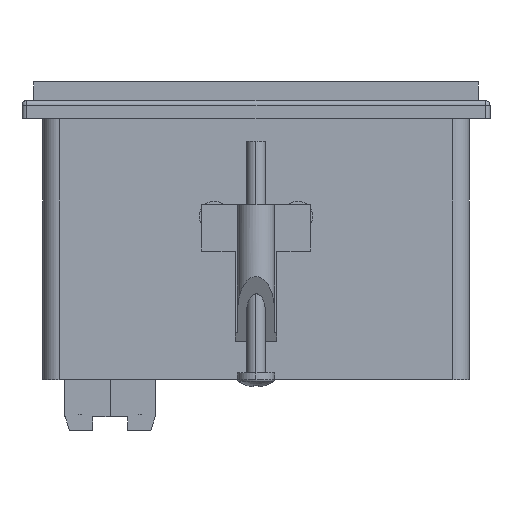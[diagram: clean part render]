
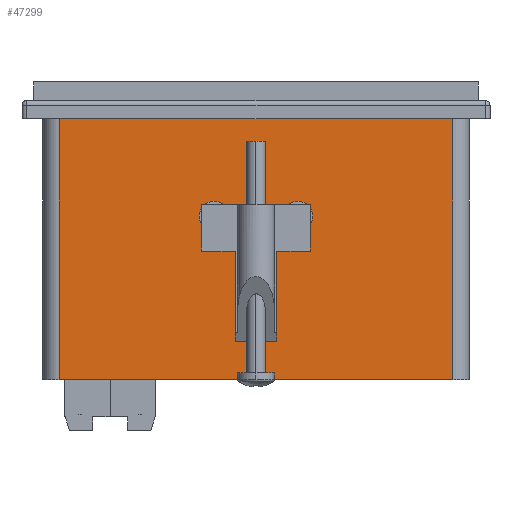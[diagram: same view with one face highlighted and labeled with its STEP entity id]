
A CAD part, left-side view. The second image highlights one B-rep face of the part: STEP entity #47299.
In plain terms, the highlighted planar face has unit normal (-1, 0, 0).
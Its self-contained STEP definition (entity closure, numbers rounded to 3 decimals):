
#3217 = CARTESIAN_POINT ( 'NONE',  ( -46., 46., -58.25 ) ) ;
#4468 = CIRCLE ( 'NONE', #43365, 3.25 ) ;
#5127 = ORIENTED_EDGE ( 'NONE', *, *, #44174, .T. ) ;
#5283 = VERTEX_POINT ( 'NONE', #20784 ) ;
#6090 = AXIS2_PLACEMENT_3D ( 'NONE', #14687, #41189, #18563 ) ;
#7062 = DIRECTION ( 'NONE',  ( 0., 1., 0. ) ) ;
#7638 = VECTOR ( 'NONE', #7062, 1000. ) ;
#7772 = VERTEX_POINT ( 'NONE', #9545 ) ;
#9217 = ORIENTED_EDGE ( 'NONE', *, *, #13329, .F. ) ;
#9525 = VECTOR ( 'NONE', #13720, 1000. ) ;
#9545 = CARTESIAN_POINT ( 'NONE',  ( -46., 12.25, -23. ) ) ;
#9654 = CARTESIAN_POINT ( 'NONE',  ( -46., 42.5, -58.25 ) ) ;
#9712 = CARTESIAN_POINT ( 'NONE',  ( -46., -42.5, -58.25 ) ) ;
#9913 = CARTESIAN_POINT ( 'NONE',  ( -46., 42.5, -58.25 ) ) ;
#12004 = FACE_OUTER_BOUND ( 'NONE', #36056, .T. ) ;
#12023 = LINE ( 'NONE', #12283, #22155 ) ;
#12283 = CARTESIAN_POINT ( 'NONE',  ( -46., 46., 0. ) ) ;
#13329 = EDGE_CURVE ( 'NONE', #20209, #42061, #34367, .T. ) ;
#13501 = DIRECTION ( 'NONE',  ( 0., 0., 1. ) ) ;
#13705 = CARTESIAN_POINT ( 'NONE',  ( -46., -5.75, -23. ) ) ;
#13720 = DIRECTION ( 'NONE',  ( 0., 0., -1. ) ) ;
#14687 = CARTESIAN_POINT ( 'NONE',  ( -46., 46., -58.25 ) ) ;
#14887 = VERTEX_POINT ( 'NONE', #20724 ) ;
#14967 = DIRECTION ( 'NONE',  ( -1., 0., 0. ) ) ;
#17763 = LINE ( 'NONE', #3217, #7638 ) ;
#17912 = CARTESIAN_POINT ( 'NONE',  ( -46., -9., -23. ) ) ;
#18175 = EDGE_LOOP ( 'NONE', ( #9217, #29675 ) ) ;
#18409 = CARTESIAN_POINT ( 'NONE',  ( -46., 9., -23. ) ) ;
#18563 = DIRECTION ( 'NONE',  ( 0., 1., 0. ) ) ;
#18989 = ORIENTED_EDGE ( 'NONE', *, *, #20383, .F. ) ;
#19108 = AXIS2_PLACEMENT_3D ( 'NONE', #18409, #44822, #22204 ) ;
#19665 = LINE ( 'NONE', #9913, #9525 ) ;
#19994 = DIRECTION ( 'NONE',  ( 0., 1., 0. ) ) ;
#20209 = VERTEX_POINT ( 'NONE', #36150 ) ;
#20383 = EDGE_CURVE ( 'NONE', #7772, #39347, #4468, .T. ) ;
#20724 = CARTESIAN_POINT ( 'NONE',  ( -46., 42.5, 0. ) ) ;
#20784 = CARTESIAN_POINT ( 'NONE',  ( -46., -42.5, -58.25 ) ) ;
#21191 = VECTOR ( 'NONE', #13501, 1000. ) ;
#21708 = DIRECTION ( 'NONE',  ( 0., -1., 0. ) ) ;
#21933 = CIRCLE ( 'NONE', #29015, 3.25 ) ;
#22129 = FACE_BOUND ( 'NONE', #18175, .T. ) ;
#22141 = EDGE_CURVE ( 'NONE', #14887, #34589, #19665, .T. ) ;
#22155 = VECTOR ( 'NONE', #19994, 1000. ) ;
#22204 = DIRECTION ( 'NONE',  ( 0., -1., 0. ) ) ;
#22353 = ORIENTED_EDGE ( 'NONE', *, *, #38894, .T. ) ;
#22369 = DIRECTION ( 'NONE',  ( -1., 0., 0. ) ) ;
#24620 = EDGE_LOOP ( 'NONE', ( #39202, #18989 ) ) ;
#25014 = CARTESIAN_POINT ( 'NONE',  ( -46., -42.5, 0. ) ) ;
#25971 = PLANE ( 'NONE',  #6090 ) ;
#29015 = AXIS2_PLACEMENT_3D ( 'NONE', #17912, #44325, #21708 ) ;
#29675 = ORIENTED_EDGE ( 'NONE', *, *, #45619, .F. ) ;
#32234 = FACE_BOUND ( 'NONE', #24620, .T. ) ;
#32938 = AXIS2_PLACEMENT_3D ( 'NONE', #37677, #14967, #41436 ) ;
#34367 = CIRCLE ( 'NONE', #32938, 3.25 ) ;
#34589 = VERTEX_POINT ( 'NONE', #9654 ) ;
#36056 = EDGE_LOOP ( 'NONE', ( #45020, #5127, #22353, #44876 ) ) ;
#36150 = CARTESIAN_POINT ( 'NONE',  ( -46., -12.25, -23. ) ) ;
#37677 = CARTESIAN_POINT ( 'NONE',  ( -46., -9., -23. ) ) ;
#38894 = EDGE_CURVE ( 'NONE', #40387, #14887, #12023, .T. ) ;
#39202 = ORIENTED_EDGE ( 'NONE', *, *, #43680, .F. ) ;
#39347 = VERTEX_POINT ( 'NONE', #45397 ) ;
#40387 = VERTEX_POINT ( 'NONE', #25014 ) ;
#41189 = DIRECTION ( 'NONE',  ( 1., 0., 0. ) ) ;
#41288 = LINE ( 'NONE', #9712, #21191 ) ;
#41436 = DIRECTION ( 'NONE',  ( 0., -1., 0. ) ) ;
#42061 = VERTEX_POINT ( 'NONE', #13705 ) ;
#43365 = AXIS2_PLACEMENT_3D ( 'NONE', #45017, #22369, #48840 ) ;
#43680 = EDGE_CURVE ( 'NONE', #39347, #7772, #46769, .T. ) ;
#43696 = EDGE_CURVE ( 'NONE', #5283, #34589, #17763, .T. ) ;
#44174 = EDGE_CURVE ( 'NONE', #5283, #40387, #41288, .T. ) ;
#44325 = DIRECTION ( 'NONE',  ( -1., 0., 0. ) ) ;
#44822 = DIRECTION ( 'NONE',  ( -1., 0., 0. ) ) ;
#44876 = ORIENTED_EDGE ( 'NONE', *, *, #22141, .T. ) ;
#45017 = CARTESIAN_POINT ( 'NONE',  ( -46., 9., -23. ) ) ;
#45020 = ORIENTED_EDGE ( 'NONE', *, *, #43696, .F. ) ;
#45397 = CARTESIAN_POINT ( 'NONE',  ( -46., 5.75, -23. ) ) ;
#45619 = EDGE_CURVE ( 'NONE', #42061, #20209, #21933, .T. ) ;
#46769 = CIRCLE ( 'NONE', #19108, 3.25 ) ;
#47299 = ADVANCED_FACE ( 'NONE', ( #32234, #22129, #12004 ), #25971, .F. ) ;
#48840 = DIRECTION ( 'NONE',  ( 0., -1., 0. ) ) ;
